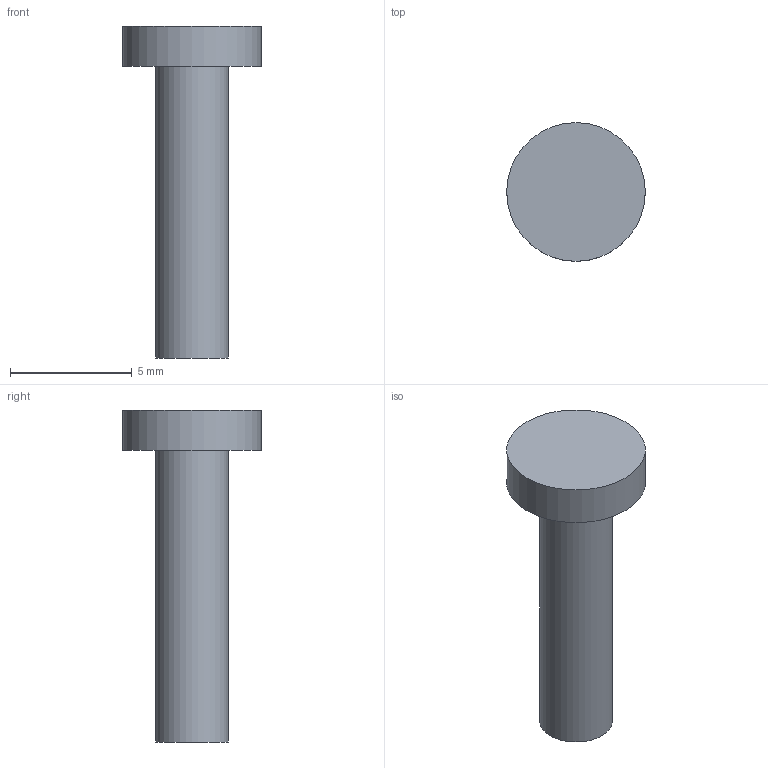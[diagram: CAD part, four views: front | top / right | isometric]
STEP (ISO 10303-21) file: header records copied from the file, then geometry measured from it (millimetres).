
FILE_DESCRIPTION(('Open CASCADE Model'),'2;1');
FILE_NAME('Open CASCADE Shape Model','2026-11-24T19:57:41',('Author'),( 'Open CASCADE'),'Open CASCADE STEP processor 7.8','Open CASCADE 7.8' ,'Unknown');
FILE_SCHEMA(('AUTOMOTIVE_DESIGN { 1 0 10303 214 1 1 1 1 }'));
Length unit declared in the file: millimetre
Products named in the file (1): Open CASCADE STEP translator 7.8 186
Bounding box: 5.7 x 5.7 x 13.65 mm (x, y, z)
Volume: 126.9 mm3; surface area: 193.7 mm2
Topology: 1 solids, 1 shells, 5 faces, 6 edges, 4 vertices
Faces by surface type: plane 3, cylinder 2
Full cylindrical faces by diameter (mm): 3 x1, 5.7 x1
Entity records: 190 total; most frequent: DIRECTION 32, CARTESIAN_POINT 30, ORIENTED_EDGE 12, PCURVE 12, DEFINITIONAL_REPRESENTATION 12, AXIS2_PLACEMENT_3D 10, CIRCLE 8, LINE 8
